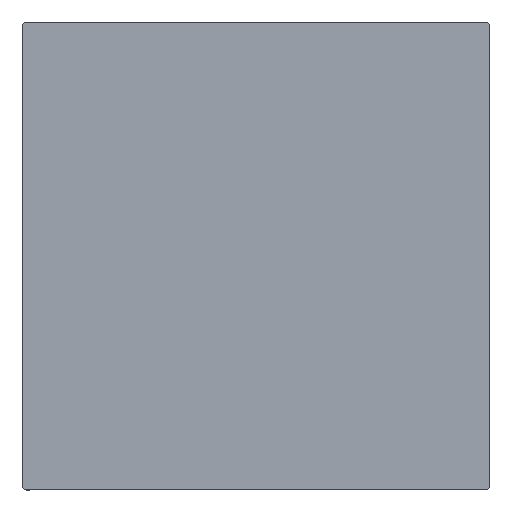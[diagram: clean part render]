
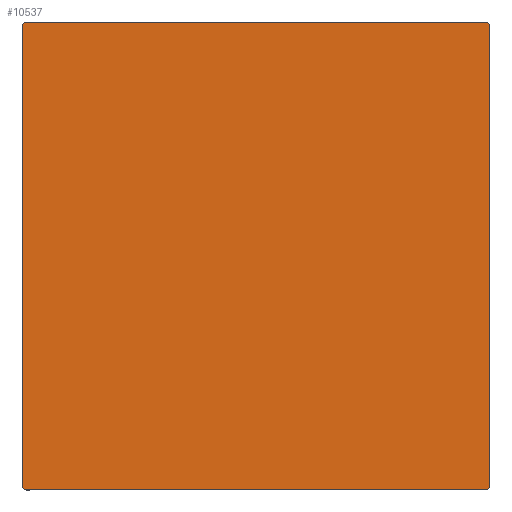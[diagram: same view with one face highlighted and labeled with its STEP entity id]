
A CAD part, top view. The second image highlights one B-rep face of the part: STEP entity #10537.
In plain terms, the highlighted planar face has unit normal (0, 0, 1).
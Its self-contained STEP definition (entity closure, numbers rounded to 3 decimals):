
#730=CIRCLE('',#12237,4.);
#731=CIRCLE('',#12238,4.);
#732=CIRCLE('',#12239,4.);
#733=CIRCLE('',#12240,4.);
#2273=ORIENTED_EDGE('',*,*,#4484,.T.);
#2274=ORIENTED_EDGE('',*,*,#4494,.T.);
#2275=ORIENTED_EDGE('',*,*,#4486,.T.);
#2276=ORIENTED_EDGE('',*,*,#4495,.T.);
#2277=ORIENTED_EDGE('',*,*,#4492,.T.);
#2278=ORIENTED_EDGE('',*,*,#4496,.T.);
#2279=ORIENTED_EDGE('',*,*,#4480,.T.);
#2280=ORIENTED_EDGE('',*,*,#4497,.T.);
#4480=EDGE_CURVE('',#5712,#5711,#6596,.T.);
#4484=EDGE_CURVE('',#5716,#5715,#6600,.T.);
#4486=EDGE_CURVE('',#5717,#5718,#6602,.T.);
#4492=EDGE_CURVE('',#5724,#5723,#6608,.T.);
#4494=EDGE_CURVE('',#5715,#5717,#730,.T.);
#4495=EDGE_CURVE('',#5718,#5724,#731,.T.);
#4496=EDGE_CURVE('',#5723,#5712,#732,.T.);
#4497=EDGE_CURVE('',#5711,#5716,#733,.T.);
#5711=VERTEX_POINT('',#17515);
#5712=VERTEX_POINT('',#17517);
#5715=VERTEX_POINT('',#17524);
#5716=VERTEX_POINT('',#17526);
#5717=VERTEX_POINT('',#17530);
#5718=VERTEX_POINT('',#17531);
#5723=VERTEX_POINT('',#17542);
#5724=VERTEX_POINT('',#17544);
#6596=LINE('',#17516,#7527);
#6600=LINE('',#17525,#7531);
#6602=LINE('',#17529,#7533);
#6608=LINE('',#17543,#7539);
#7527=VECTOR('',#14271,1000.);
#7531=VECTOR('',#14277,1000.);
#7533=VECTOR('',#14281,1000.);
#7539=VECTOR('',#14289,1000.);
#8520=EDGE_LOOP('',(#2273,#2274,#2275,#2276,#2277,#2278,#2279,#2280));
#9363=FACE_BOUND('',#8520,.T.);
#9980=PLANE('',#12236);
#10537=ADVANCED_FACE('',(#9363),#9980,.T.);
#12236=AXIS2_PLACEMENT_3D('',#17546,#14291,#14292);
#12237=AXIS2_PLACEMENT_3D('',#17547,#14293,#14294);
#12238=AXIS2_PLACEMENT_3D('',#17548,#14295,#14296);
#12239=AXIS2_PLACEMENT_3D('',#17549,#14297,#14298);
#12240=AXIS2_PLACEMENT_3D('',#17550,#14299,#14300);
#14271=DIRECTION('',(0.,-1.,0.));
#14277=DIRECTION('',(1.,0.,0.));
#14281=DIRECTION('',(0.,1.,0.));
#14289=DIRECTION('',(-1.,0.,0.));
#14291=DIRECTION('',(0.,0.,1.));
#14292=DIRECTION('',(1.,0.,0.));
#14293=DIRECTION('',(0.,0.,1.));
#14294=DIRECTION('',(1.,0.,0.));
#14295=DIRECTION('',(0.,0.,1.));
#14296=DIRECTION('',(1.,0.,0.));
#14297=DIRECTION('',(0.,0.,1.));
#14298=DIRECTION('',(1.,0.,0.));
#14299=DIRECTION('',(0.,0.,1.));
#14300=DIRECTION('',(1.,0.,0.));
#17515=CARTESIAN_POINT('',(-217.5,-213.5,6.));
#17516=CARTESIAN_POINT('',(-217.5,217.5,6.));
#17517=CARTESIAN_POINT('',(-217.5,213.5,6.));
#17524=CARTESIAN_POINT('',(213.5,-217.5,6.));
#17525=CARTESIAN_POINT('',(-217.5,-217.5,6.));
#17526=CARTESIAN_POINT('',(-213.5,-217.5,6.));
#17529=CARTESIAN_POINT('',(217.5,-217.5,6.));
#17530=CARTESIAN_POINT('',(217.5,-213.5,6.));
#17531=CARTESIAN_POINT('',(217.5,213.5,6.));
#17542=CARTESIAN_POINT('',(-213.5,217.5,6.));
#17543=CARTESIAN_POINT('',(217.5,217.5,6.));
#17544=CARTESIAN_POINT('',(213.5,217.5,6.));
#17546=CARTESIAN_POINT('',(-217.5,-217.5,6.));
#17547=CARTESIAN_POINT('',(213.5,-213.5,6.));
#17548=CARTESIAN_POINT('',(213.5,213.5,6.));
#17549=CARTESIAN_POINT('',(-213.5,213.5,6.));
#17550=CARTESIAN_POINT('',(-213.5,-213.5,6.));
